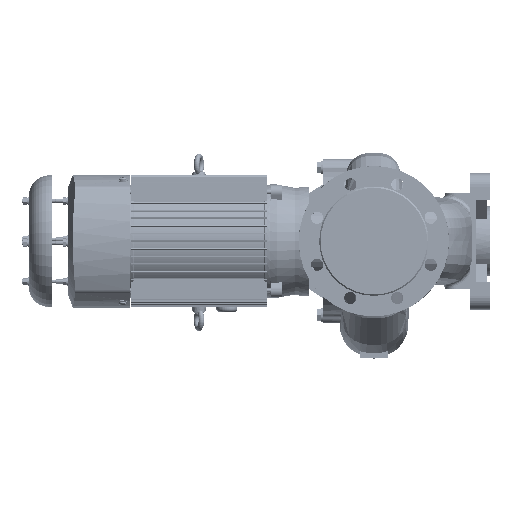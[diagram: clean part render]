
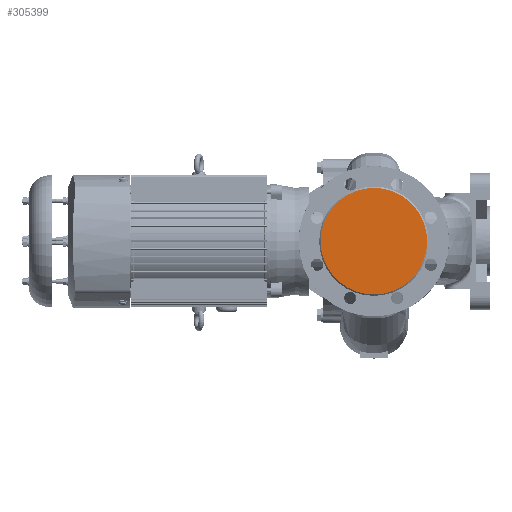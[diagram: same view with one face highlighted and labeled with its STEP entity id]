
A CAD part, left-side view. The second image highlights one B-rep face of the part: STEP entity #305399.
In plain terms, the highlighted planar face has unit normal (-1, 0, 0).
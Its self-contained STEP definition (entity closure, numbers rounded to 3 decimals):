
#10659 = EDGE_LOOP ( 'NONE', ( #15188 ) ) ;
#11890 = PLANE ( 'NONE',  #287440 ) ;
#15188 = ORIENTED_EDGE ( 'NONE', *, *, #207680, .F. ) ;
#26874 = CARTESIAN_POINT ( 'NONE',  ( -57.161, 330.988, 437.355 ) ) ;
#29612 = FACE_OUTER_BOUND ( 'NONE', #10659, .T. ) ;
#52744 = DIRECTION ( 'NONE',  ( 0., 1., 0. ) ) ;
#80662 = VERTEX_POINT ( 'NONE', #184369 ) ;
#114977 = CARTESIAN_POINT ( 'NONE',  ( -57.161, 330.988, 437.355 ) ) ;
#140752 = DIRECTION ( 'NONE',  ( 0., 0., 1. ) ) ;
#171268 = AXIS2_PLACEMENT_3D ( 'NONE', #26874, #206237, #52744 ) ;
#184369 = CARTESIAN_POINT ( 'NONE',  ( -57.161, 408.988, 437.355 ) ) ;
#206237 = DIRECTION ( 'NONE',  ( 1., 0., 0. ) ) ;
#207680 = EDGE_CURVE ( 'NONE', #80662, #80662, #234341, .T. ) ;
#234341 = CIRCLE ( 'NONE', #171268, 78. ) ;
#287440 = AXIS2_PLACEMENT_3D ( 'NONE', #114977, #294368, #140752 ) ;
#294368 = DIRECTION ( 'NONE',  ( -1., 0., 0. ) ) ;
#305399 = ADVANCED_FACE ( 'NONE', ( #29612 ), #11890, .T. ) ;
